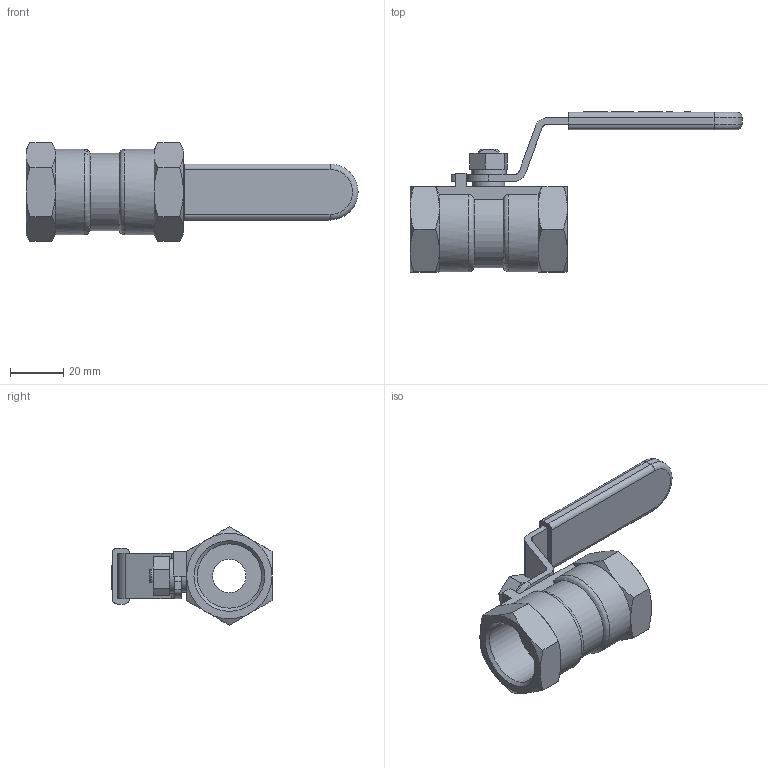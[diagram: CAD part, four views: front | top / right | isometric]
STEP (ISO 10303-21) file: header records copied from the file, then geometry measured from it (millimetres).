
FILE_DESCRIPTION(/* description */ ('Eriks item no: 12427436'),/* implementation_level */ '2;1');
FILE_NAME(/* name */ '7744-DN20-RB-1000PSI-BSP.stp',/* time_stamp */ '2024-02-16T09:50:22+01:00',/* author */ ('roger.thijssen'),/* organization */ (''),/* preprocessor_version */ 'ST-DEVELOPER v19.2',/* originating_system */ 'Autodesk Inventor 2024',/* authorisation */ '');
FILE_SCHEMA (('AUTOMOTIVE_DESIGN { 1 0 10303 214 3 1 1 }'));
Length unit declared in the file: millimetre
Products named in the file (1): Ball valve, 7744-DN20-RB-1000PSI-BSP
Bounding box: 124.5 x 60 x 36.95 mm (x, y, z)
Volume: 42482.8 mm3; surface area: 17213.7 mm2
Topology: 1 solids, 1 shells, 330 faces, 855 edges, 556 vertices
Faces by surface type: plane 229, cylinder 49, cone 28, bspline 20, torus 4
Full cylindrical faces by diameter (mm): 12 x1, 12.5 x1, 13 x1, 24.117 x2
Entity records: 10488 total; most frequent: CARTESIAN_POINT 2182, ORIENTED_EDGE 1710, DIRECTION 1513, EDGE_CURVE 855, LINE 627, VECTOR 627, VERTEX_POINT 556, AXIS2_PLACEMENT_3D 443
